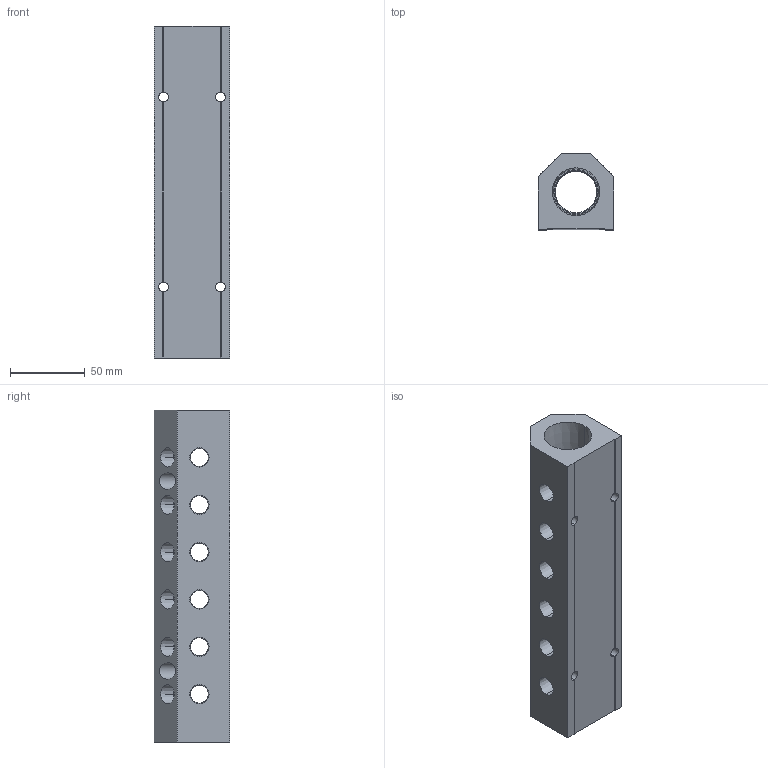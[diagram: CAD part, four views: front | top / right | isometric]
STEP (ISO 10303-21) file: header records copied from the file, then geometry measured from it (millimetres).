
FILE_DESCRIPTION (( 'STEP AP214' ), '1' );
FILE_NAME ('ALM6ABCDE-N4N16-222R.STEP', '2023-11-02T06:49:56', ( '' ), ( '' ), 'SwSTEP 2.0', 'SolidWorks 2020', '' );
FILE_SCHEMA (( 'AUTOMOTIVE_DESIGN' ));
Length unit declared in the file: millimetre
Products named in the file (1): ALM6ABCDE-N4N16-222R
Bounding box: 50.8 x 50.8 x 222 mm (x, y, z)
Volume: 319953.9 mm3; surface area: 74925.9 mm2
Topology: 1 solids, 1 shells, 396 faces, 1091 edges, 722 vertices
Faces by surface type: plane 239, cone 68, bspline 67, cylinder 22
Entity records: 23051 total; most frequent: CARTESIAN_POINT 9643, ORIENTED_EDGE 2182, DIRECTION 1621, EDGE_CURVE 1091, LINE 753, VECTOR 753, VERTEX_POINT 722, EDGE_LOOP 491
